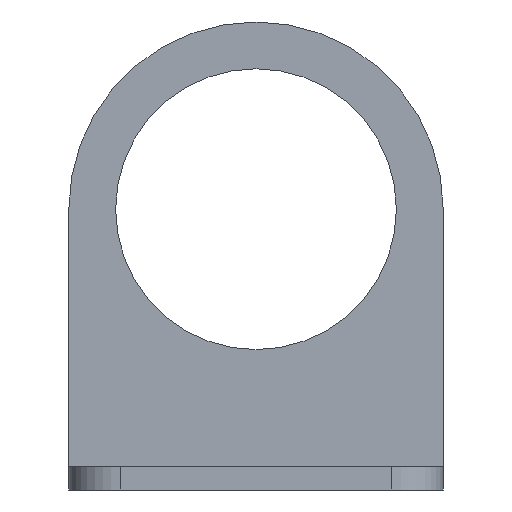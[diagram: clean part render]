
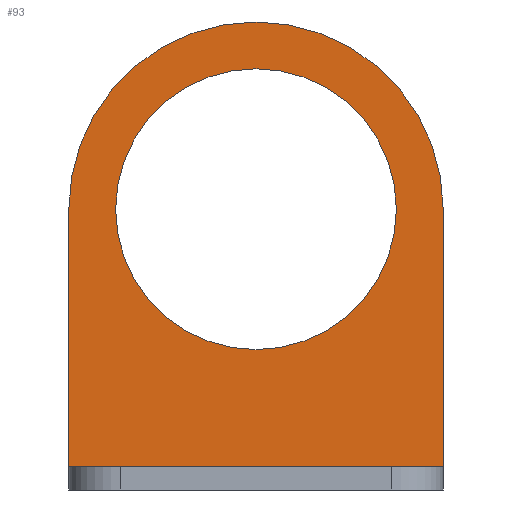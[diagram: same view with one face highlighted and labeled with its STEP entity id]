
A CAD part, left-side view. The second image highlights one B-rep face of the part: STEP entity #93.
In plain terms, the highlighted planar face has unit normal (-1, 0, 0).
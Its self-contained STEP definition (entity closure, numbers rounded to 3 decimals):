
#93 = ADVANCED_FACE( '', ( #137, #138 ), #139, .F. );
#137 = FACE_OUTER_BOUND( '', #182, .T. );
#138 = FACE_BOUND( '', #183, .T. );
#139 = PLANE( '', #184 );
#182 = EDGE_LOOP( '', ( #334, #335, #336, #337 ) );
#183 = EDGE_LOOP( '', ( #338 ) );
#184 = AXIS2_PLACEMENT_3D( '', #339, #340, #341 );
#334 = ORIENTED_EDGE( '', *, *, #362, .F. );
#335 = ORIENTED_EDGE( '', *, *, #348, .F. );
#336 = ORIENTED_EDGE( '', *, *, #390, .F. );
#337 = ORIENTED_EDGE( '', *, *, #385, .F. );
#338 = ORIENTED_EDGE( '', *, *, #391, .T. );
#339 = CARTESIAN_POINT( '', ( 17.5, 0., 30. ) );
#340 = DIRECTION( '', ( 1., 0., 0. ) );
#341 = DIRECTION( '', ( 0., 0., -1. ) );
#348 = EDGE_CURVE( '', #403, #405, #406, .T. );
#362 = EDGE_CURVE( '', #405, #430, #431, .T. );
#385 = EDGE_CURVE( '', #430, #465, #466, .T. );
#390 = EDGE_CURVE( '', #465, #403, #473, .T. );
#391 = EDGE_CURVE( '', #474, #474, #475, .T. );
#403 = VERTEX_POINT( '', #490 );
#405 = VERTEX_POINT( '', #493 );
#406 = LINE( '', #494, #495 );
#430 = VERTEX_POINT( '', #528 );
#431 = LINE( '', #529, #530 );
#465 = VERTEX_POINT( '', #580 );
#466 = LINE( '', #581, #582 );
#473 = CIRCLE( '', #591, 20. );
#474 = VERTEX_POINT( '', #592 );
#475 = CIRCLE( '', #593, 15. );
#490 = CARTESIAN_POINT( '', ( 17.5, -20., 30. ) );
#493 = CARTESIAN_POINT( '', ( 17.5, -20., 2.5 ) );
#494 = CARTESIAN_POINT( '', ( 17.5, -20., 30. ) );
#495 = VECTOR( '', #604, 1000. );
#528 = CARTESIAN_POINT( '', ( 17.5, 20., 2.5 ) );
#529 = CARTESIAN_POINT( '', ( 17.5, -14.5, 2.5 ) );
#530 = VECTOR( '', #626, 1000. );
#580 = CARTESIAN_POINT( '', ( 17.5, 20., 30. ) );
#581 = CARTESIAN_POINT( '', ( 17.5, 20., 0. ) );
#582 = VECTOR( '', #661, 1000. );
#591 = AXIS2_PLACEMENT_3D( '', #670, #671, #672 );
#592 = CARTESIAN_POINT( '', ( 17.5, 0., 15. ) );
#593 = AXIS2_PLACEMENT_3D( '', #673, #674, #675 );
#604 = DIRECTION( '', ( 0., 0., -1. ) );
#626 = DIRECTION( '', ( 0., 1., 0. ) );
#661 = DIRECTION( '', ( 0., 0., 1. ) );
#670 = CARTESIAN_POINT( '', ( 17.5, 0., 30. ) );
#671 = DIRECTION( '', ( 1., 0., 0. ) );
#672 = DIRECTION( '', ( 0., 0., -1. ) );
#673 = CARTESIAN_POINT( '', ( 17.5, 0., 30. ) );
#674 = DIRECTION( '', ( 1., 0., 0. ) );
#675 = DIRECTION( '', ( 0., 0., -1. ) );
